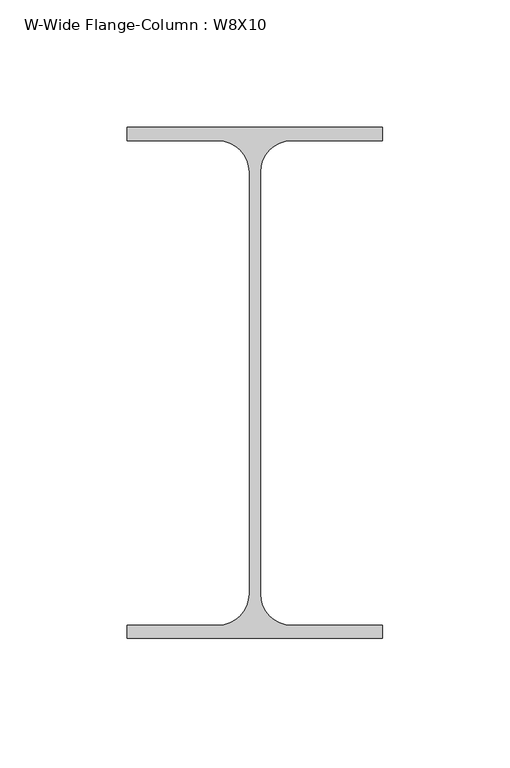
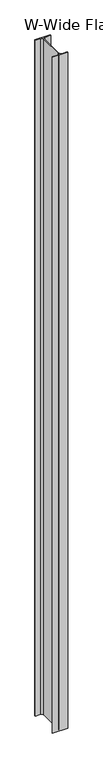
"""IFC4 building model written with IfcOpenShell, lengths in millimetres: column geometry, W-Wide Flange-Column : W8X10."""

from ifc_helpers import new_model, si_unit, point, frame, frame_2d, origin, place, context, project, spatial, polyline, circle_curve, trimmed, segment, composite_curve, outline, extrude, source, transform, mapped, element, save


def w_wide_flange_column_w8x10_a9b31349(model_context):
    return source(origin(), model_context, "Body", "SweptSolid", [
        extrude(outline(composite_curve([segment(polyline([(50.038, 100.203), (50.038, 94.996), (14.4145, 94.996)]), True, "CONTINUOUS"), segment(trimmed(circle_curve(frame_2d((14.4145, 82.7405)), 12.2555), [point((14.4145, 94.996))], [point((2.159, 82.7405))], True, "CARTESIAN"), True, "CONTINUOUS"), segment(polyline([(2.159, 82.7405), (2.159, -82.7405)]), True, "CONTINUOUS"), segment(trimmed(circle_curve(frame_2d((14.4145, -82.7405)), 12.2555), [point((2.159, -82.7405))], [point((14.4145, -94.996))], True, "CARTESIAN"), True, "CONTINUOUS"), segment(polyline([(14.4145, -94.996), (50.038, -94.996), (50.038, -100.203), (-50.038, -100.203), (-50.038, -94.996), (-14.4145, -94.996)]), True, "CONTINUOUS"), segment(trimmed(circle_curve(frame_2d((-14.4145, -82.7405)), 12.2555), [point((-14.4145, -94.996))], [point((-2.159, -82.7405))], True, "CARTESIAN"), True, "CONTINUOUS"), segment(polyline([(-2.159, -82.7405), (-2.159, 82.7405)]), True, "CONTINUOUS"), segment(trimmed(circle_curve(frame_2d((-14.4145, 82.7405)), 12.2555), [point((-2.159, 82.7405))], [point((-14.4145, 94.996))], True, "CARTESIAN"), True, "CONTINUOUS"), segment(polyline([(-14.4145, 94.996), (-50.038, 94.996), (-50.038, 100.203), (50.038, 100.203)]), True, "CONTINUOUS")], self_intersect=False)), frame((0.0, 0.0, -254.0), z_axis=(0.0, 0.0, 1.0), x_axis=(1.0, 0.0, 0.0)), (0.0, 0.0, 1.0), 4699.0),
    ])


if __name__ == "__main__":
    model = new_model("IFC4")
    model_context = context("Model", 3, world=origin())
    ifc_project = project(units=[si_unit("LENGTHUNIT", "METRE", prefix="MILLI")], contexts=[model_context])
    site = spatial("IfcSite", under=ifc_project)
    building = spatial("IfcBuilding", under=site)
    placement = place(None, origin())
    w_wide_flange_column_w8x10_shape = w_wide_flange_column_w8x10_a9b31349(model_context)
    element("IfcColumn", 1, ObjectType="W-Wide Flange-Column : W8X10", at=placement, inside=building, context=model_context, shape_type="MappedRepresentation", body=[
        mapped(w_wide_flange_column_w8x10_shape, transform((0.0, 0.0, 0.0), x_axis=(1.0, 0.0, 0.0), y_axis=(0.0, 1.0, 0.0), z_axis=(0.0, 0.0, 1.0))),
    ])
    save(model, "model.ifc")
